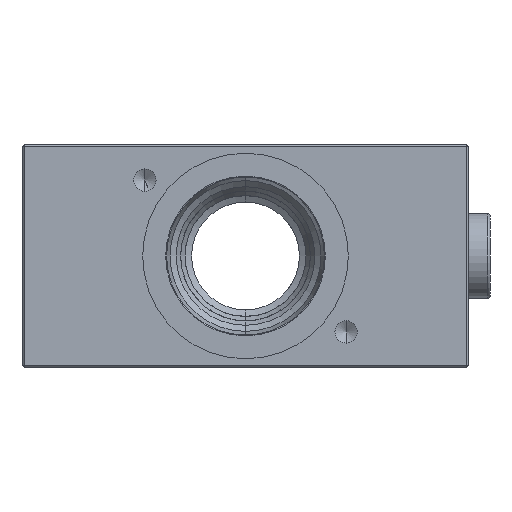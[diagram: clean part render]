
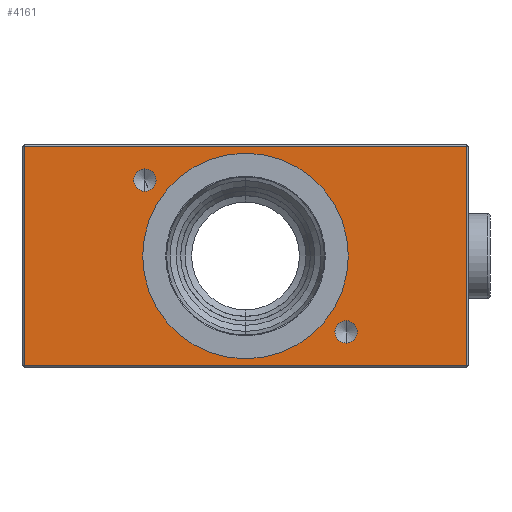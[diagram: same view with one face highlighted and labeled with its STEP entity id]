
A CAD part, left-side view. The second image highlights one B-rep face of the part: STEP entity #4161.
In plain terms, the highlighted planar face has unit normal (-1, 0, 0).
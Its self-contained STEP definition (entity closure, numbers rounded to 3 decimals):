
#29 = CARTESIAN_POINT ( 'NONE',  ( 0., 0., -23. ) ) ;
#61 = CARTESIAN_POINT ( 'NONE',  ( 0., 49.5, -24.5 ) ) ;
#378 = EDGE_CURVE ( 'NONE', #1065, #556, #8444, .T. ) ;
#556 = VERTEX_POINT ( 'NONE', #4413 ) ;
#632 = LINE ( 'NONE', #8308, #8426 ) ;
#926 = CARTESIAN_POINT ( 'NONE',  ( 0., -22.5, -19.5 ) ) ;
#1065 = VERTEX_POINT ( 'NONE', #14154 ) ;
#1154 = EDGE_CURVE ( 'NONE', #16094, #5147, #8902, .T. ) ;
#1306 = LINE ( 'NONE', #4580, #6925 ) ;
#1421 = ORIENTED_EDGE ( 'NONE', *, *, #11455, .T. ) ;
#1638 = ORIENTED_EDGE ( 'NONE', *, *, #378, .F. ) ;
#1941 = VECTOR ( 'NONE', #11971, 1000. ) ;
#2228 = CARTESIAN_POINT ( 'NONE',  ( 0., -22.5, -14.5 ) ) ;
#2247 = AXIS2_PLACEMENT_3D ( 'NONE', #11571, #17625, #5158 ) ;
#2523 = EDGE_CURVE ( 'NONE', #13605, #4153, #6626, .T. ) ;
#2563 = EDGE_LOOP ( 'NONE', ( #19889, #5799 ) ) ;
#3355 = CIRCLE ( 'NONE', #16758, 23. ) ;
#3416 = AXIS2_PLACEMENT_3D ( 'NONE', #14361, #14424, #8248 ) ;
#3812 = EDGE_LOOP ( 'NONE', ( #5106, #11552, #1421, #9192 ) ) ;
#3880 = DIRECTION ( 'NONE',  ( -1., 0., 0. ) ) ;
#3956 = AXIS2_PLACEMENT_3D ( 'NONE', #11541, #8633, #19413 ) ;
#4091 = ORIENTED_EDGE ( 'NONE', *, *, #15883, .F. ) ;
#4144 = CARTESIAN_POINT ( 'NONE',  ( 0., -49.5, -24.5 ) ) ;
#4153 = VERTEX_POINT ( 'NONE', #2228 ) ;
#4161 = ADVANCED_FACE ( 'NONE', ( #16496, #19136, #16721, #12338 ), #17673, .T. ) ;
#4200 = ORIENTED_EDGE ( 'NONE', *, *, #12112, .F. ) ;
#4413 = CARTESIAN_POINT ( 'NONE',  ( 0., 22.5, 14.5 ) ) ;
#4427 = EDGE_CURVE ( 'NONE', #14435, #9099, #14310, .T. ) ;
#4462 = CARTESIAN_POINT ( 'NONE',  ( 0., -22.5, -17. ) ) ;
#4465 = CARTESIAN_POINT ( 'NONE',  ( 0., -50., -24.5 ) ) ;
#4580 = CARTESIAN_POINT ( 'NONE',  ( 0., 49.5, -25. ) ) ;
#5106 = ORIENTED_EDGE ( 'NONE', *, *, #4427, .T. ) ;
#5147 = VERTEX_POINT ( 'NONE', #10767 ) ;
#5158 = DIRECTION ( 'NONE',  ( 0., 0., 1. ) ) ;
#5361 = CARTESIAN_POINT ( 'NONE',  ( 0., 0., 0. ) ) ;
#5799 = ORIENTED_EDGE ( 'NONE', *, *, #1154, .F. ) ;
#5986 = ORIENTED_EDGE ( 'NONE', *, *, #2523, .F. ) ;
#6084 = DIRECTION ( 'NONE',  ( 0., 0., 1. ) ) ;
#6626 = CIRCLE ( 'NONE', #14082, 2.5 ) ;
#6925 = VECTOR ( 'NONE', #16971, 1000. ) ;
#6940 = CIRCLE ( 'NONE', #7711, 2.5 ) ;
#7711 = AXIS2_PLACEMENT_3D ( 'NONE', #14932, #16423, #19528 ) ;
#7776 = DIRECTION ( 'NONE',  ( -1., 0., 0. ) ) ;
#8248 = DIRECTION ( 'NONE',  ( 0., 0., 1. ) ) ;
#8308 = CARTESIAN_POINT ( 'NONE',  ( 0., -49.5, 25. ) ) ;
#8426 = VECTOR ( 'NONE', #19166, 1000. ) ;
#8444 = CIRCLE ( 'NONE', #2247, 2.5 ) ;
#8507 = VECTOR ( 'NONE', #20024, 1000. ) ;
#8633 = DIRECTION ( 'NONE',  ( -1., 0., 0. ) ) ;
#8762 = EDGE_CURVE ( 'NONE', #5147, #16094, #3355, .T. ) ;
#8902 = CIRCLE ( 'NONE', #10435, 23. ) ;
#9099 = VERTEX_POINT ( 'NONE', #4144 ) ;
#9192 = ORIENTED_EDGE ( 'NONE', *, *, #9652, .T. ) ;
#9652 = EDGE_CURVE ( 'NONE', #11990, #14435, #1306, .T. ) ;
#10435 = AXIS2_PLACEMENT_3D ( 'NONE', #5361, #3880, #16351 ) ;
#10706 = VERTEX_POINT ( 'NONE', #17088 ) ;
#10767 = CARTESIAN_POINT ( 'NONE',  ( 0., 0., 23. ) ) ;
#10894 = CARTESIAN_POINT ( 'NONE',  ( 0., 49.5, 24.5 ) ) ;
#11038 = DIRECTION ( 'NONE',  ( -1., 0., 0. ) ) ;
#11455 = EDGE_CURVE ( 'NONE', #10706, #11990, #12620, .T. ) ;
#11541 = CARTESIAN_POINT ( 'NONE',  ( 0., 22.5, 17. ) ) ;
#11552 = ORIENTED_EDGE ( 'NONE', *, *, #14023, .T. ) ;
#11571 = CARTESIAN_POINT ( 'NONE',  ( 0., 22.5, 17. ) ) ;
#11971 = DIRECTION ( 'NONE',  ( 0., -1., 0. ) ) ;
#11990 = VERTEX_POINT ( 'NONE', #10894 ) ;
#12112 = EDGE_CURVE ( 'NONE', #556, #1065, #16564, .T. ) ;
#12338 = FACE_BOUND ( 'NONE', #2563, .T. ) ;
#12620 = LINE ( 'NONE', #19966, #8507 ) ;
#12795 = DIRECTION ( 'NONE',  ( 0., 0., 1. ) ) ;
#13415 = EDGE_LOOP ( 'NONE', ( #4091, #5986 ) ) ;
#13605 = VERTEX_POINT ( 'NONE', #926 ) ;
#14023 = EDGE_CURVE ( 'NONE', #9099, #10706, #632, .T. ) ;
#14082 = AXIS2_PLACEMENT_3D ( 'NONE', #4462, #7776, #6084 ) ;
#14154 = CARTESIAN_POINT ( 'NONE',  ( 0., 22.5, 19.5 ) ) ;
#14310 = LINE ( 'NONE', #4465, #1941 ) ;
#14361 = CARTESIAN_POINT ( 'NONE',  ( 0., 50., -25. ) ) ;
#14424 = DIRECTION ( 'NONE',  ( -1., 0., 0. ) ) ;
#14435 = VERTEX_POINT ( 'NONE', #61 ) ;
#14932 = CARTESIAN_POINT ( 'NONE',  ( 0., -22.5, -17. ) ) ;
#15883 = EDGE_CURVE ( 'NONE', #4153, #13605, #6940, .T. ) ;
#16094 = VERTEX_POINT ( 'NONE', #29 ) ;
#16351 = DIRECTION ( 'NONE',  ( 0., 0., 1. ) ) ;
#16423 = DIRECTION ( 'NONE',  ( -1., 0., 0. ) ) ;
#16496 = FACE_OUTER_BOUND ( 'NONE', #3812, .T. ) ;
#16564 = CIRCLE ( 'NONE', #3956, 2.5 ) ;
#16721 = FACE_BOUND ( 'NONE', #13415, .T. ) ;
#16758 = AXIS2_PLACEMENT_3D ( 'NONE', #18984, #11038, #12795 ) ;
#16971 = DIRECTION ( 'NONE',  ( 0., 0., -1. ) ) ;
#17088 = CARTESIAN_POINT ( 'NONE',  ( 0., -49.5, 24.5 ) ) ;
#17625 = DIRECTION ( 'NONE',  ( -1., 0., 0. ) ) ;
#17673 = PLANE ( 'NONE',  #3416 ) ;
#18554 = EDGE_LOOP ( 'NONE', ( #1638, #4200 ) ) ;
#18984 = CARTESIAN_POINT ( 'NONE',  ( 0., 0., 0. ) ) ;
#19136 = FACE_BOUND ( 'NONE', #18554, .T. ) ;
#19166 = DIRECTION ( 'NONE',  ( 0., 0., 1. ) ) ;
#19413 = DIRECTION ( 'NONE',  ( 0., 0., 1. ) ) ;
#19528 = DIRECTION ( 'NONE',  ( 0., 0., 1. ) ) ;
#19889 = ORIENTED_EDGE ( 'NONE', *, *, #8762, .F. ) ;
#19966 = CARTESIAN_POINT ( 'NONE',  ( 0., 50., 24.5 ) ) ;
#20024 = DIRECTION ( 'NONE',  ( 0., 1., 0. ) ) ;
